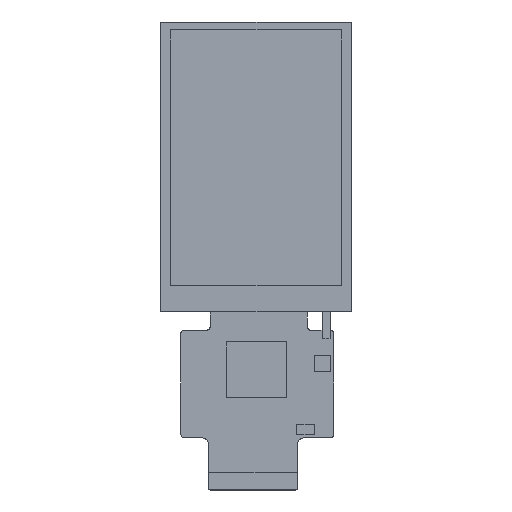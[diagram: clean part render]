
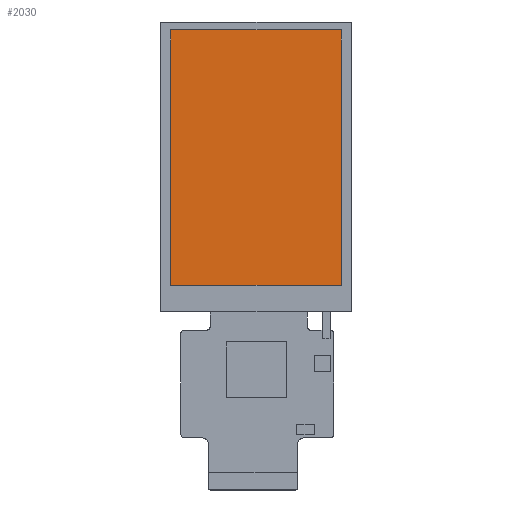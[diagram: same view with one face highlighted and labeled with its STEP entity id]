
A CAD part, top view. The second image highlights one B-rep face of the part: STEP entity #2030.
In plain terms, the highlighted planar face has unit normal (0, 0, 1).
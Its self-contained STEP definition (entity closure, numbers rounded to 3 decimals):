
#170 = VERTEX_POINT ( 'NONE', #1763 ) ;
#184 = VERTEX_POINT ( 'NONE', #2107 ) ;
#249 = ORIENTED_EDGE ( 'NONE', *, *, #1823, .F. ) ;
#264 = VECTOR ( 'NONE', #836, 1000. ) ;
#283 = ORIENTED_EDGE ( 'NONE', *, *, #1402, .F. ) ;
#318 = EDGE_LOOP ( 'NONE', ( #1952, #283, #1465, #249 ) ) ;
#320 = LINE ( 'NONE', #503, #264 ) ;
#393 = DIRECTION ( 'NONE',  ( 1., 0., 0. ) ) ;
#395 = VERTEX_POINT ( 'NONE', #964 ) ;
#449 = CARTESIAN_POINT ( 'NONE',  ( 24.48, -36.72, -0.85 ) ) ;
#503 = CARTESIAN_POINT ( 'NONE',  ( -24.48, 36.72, -0.85 ) ) ;
#778 = LINE ( 'NONE', #1361, #1189 ) ;
#836 = DIRECTION ( 'NONE',  ( 0., 1., 0. ) ) ;
#843 = DIRECTION ( 'NONE',  ( 0., -1., 0. ) ) ;
#860 = CARTESIAN_POINT ( 'NONE',  ( 0., 0., -0.85 ) ) ;
#964 = CARTESIAN_POINT ( 'NONE',  ( -24.48, -36.72, -0.85 ) ) ;
#1033 = DIRECTION ( 'NONE',  ( -1., 0., 0. ) ) ;
#1189 = VECTOR ( 'NONE', #843, 1000. ) ;
#1208 = CARTESIAN_POINT ( 'NONE',  ( -24.48, 36.72, -0.85 ) ) ;
#1218 = VECTOR ( 'NONE', #1832, 1000. ) ;
#1361 = CARTESIAN_POINT ( 'NONE',  ( 24.48, 36.72, -0.85 ) ) ;
#1402 = EDGE_CURVE ( 'NONE', #1560, #170, #1505, .T. ) ;
#1414 = VECTOR ( 'NONE', #393, 1000. ) ;
#1465 = ORIENTED_EDGE ( 'NONE', *, *, #1547, .F. ) ;
#1505 = LINE ( 'NONE', #1604, #1414 ) ;
#1532 = PLANE ( 'NONE',  #2084 ) ;
#1538 = FACE_OUTER_BOUND ( 'NONE', #318, .T. ) ;
#1547 = EDGE_CURVE ( 'NONE', #395, #1560, #320, .T. ) ;
#1560 = VERTEX_POINT ( 'NONE', #1208 ) ;
#1604 = CARTESIAN_POINT ( 'NONE',  ( 24.48, 36.72, -0.85 ) ) ;
#1763 = CARTESIAN_POINT ( 'NONE',  ( 24.48, 36.72, -0.85 ) ) ;
#1823 = EDGE_CURVE ( 'NONE', #184, #395, #2121, .T. ) ;
#1832 = DIRECTION ( 'NONE',  ( -1., 0., 0. ) ) ;
#1952 = ORIENTED_EDGE ( 'NONE', *, *, #1964, .F. ) ;
#1964 = EDGE_CURVE ( 'NONE', #170, #184, #778, .T. ) ;
#2030 = ADVANCED_FACE ( 'NONE', ( #1538 ), #1532, .F. ) ;
#2060 = DIRECTION ( 'NONE',  ( 0., 0., -1. ) ) ;
#2084 = AXIS2_PLACEMENT_3D ( 'NONE', #860, #2060, #1033 ) ;
#2107 = CARTESIAN_POINT ( 'NONE',  ( 24.48, -36.72, -0.85 ) ) ;
#2121 = LINE ( 'NONE', #449, #1218 ) ;
